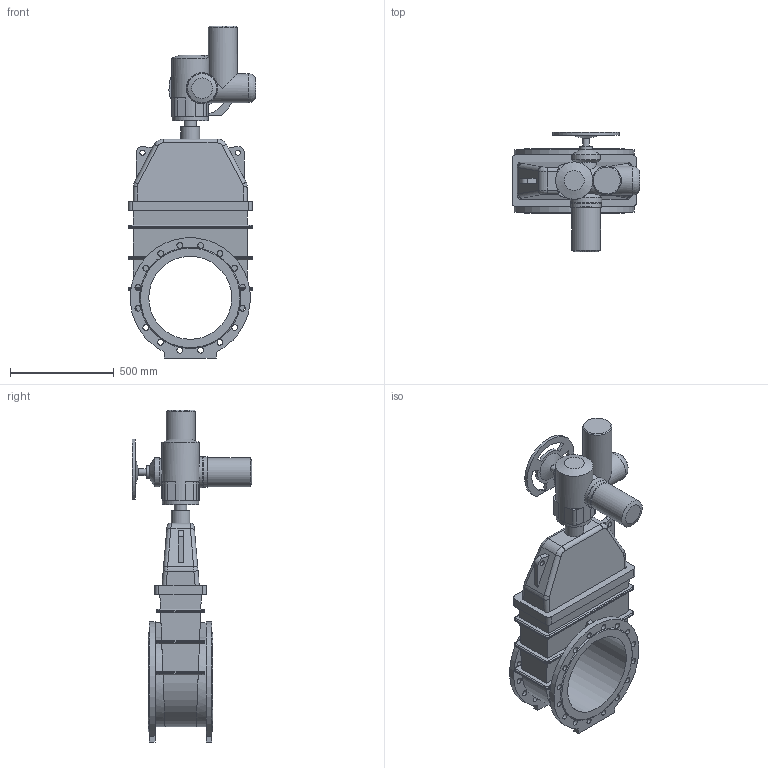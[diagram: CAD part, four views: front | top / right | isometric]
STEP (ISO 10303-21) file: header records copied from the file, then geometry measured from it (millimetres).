
FILE_DESCRIPTION(('STEP AP203'), '1');
FILE_NAME('青溻桄赅 47GVA DN400 PN10+MT903.A30', '', ('UNSPECIFIED'), ('UNSPECIFIED'), 'ASCON STEP Converter 1.6', 'ASCON Math Kernel', '');
FILE_SCHEMA(('CONFIG_CONTROL_DESIGN'));
Length unit declared in the file: millimetre
Bounding box: 617 x 578 x 1601 mm (x, y, z)
Volume: 97411895.4 mm3; surface area: 3362667.9 mm2
Topology: 2 solids, 2 shells, 346 faces, 964 edges, 617 vertices
Faces by surface type: cylinder 155, plane 147, bspline 32, cone 11, torus 1
Full cylindrical faces by diameter (mm): 14 x4, 18 x4, 25 x2, 28 x32, 32 x1, 34 x1, 60 x2, 90 x1, 100 x3, 140 x4, 147 x1, 151 x1, 175 x1, 400 x1
Entity records: 19034 total; most frequent: CARTESIAN_POINT 7720, ORIENTED_EDGE 1790, DIRECTION 1681, EDGE_CURVE 895, AXIS2_PLACEMENT_3D 642, VERTEX_POINT 617, EDGE_LOOP 494, LINE 397
